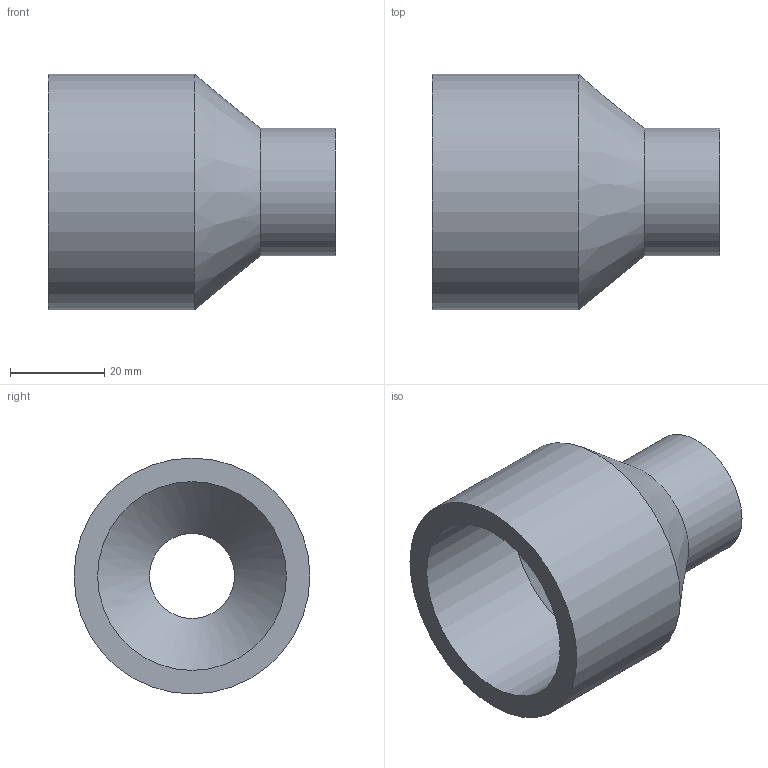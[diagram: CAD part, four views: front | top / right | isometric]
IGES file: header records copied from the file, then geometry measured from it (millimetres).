
Global section: file name: 050200050020.ipt; native system: Autodesk Inventor 2015; preprocessor: unknown; author: KIM; date: 20171207.164155; units: millimetre
Bounding box: 61 x 50 x 50 mm (x, y, z)
Volume: 39463.1 mm3; surface area: 15585.2 mm2
Topology: 1 solids, 1 shells, 10 faces, 23 edges, 16 vertices
Faces by surface type: revolution 4, plane 3, cylinder 2, cone 1
Full cylindrical faces by diameter (mm): 27 x1, 50 x1
